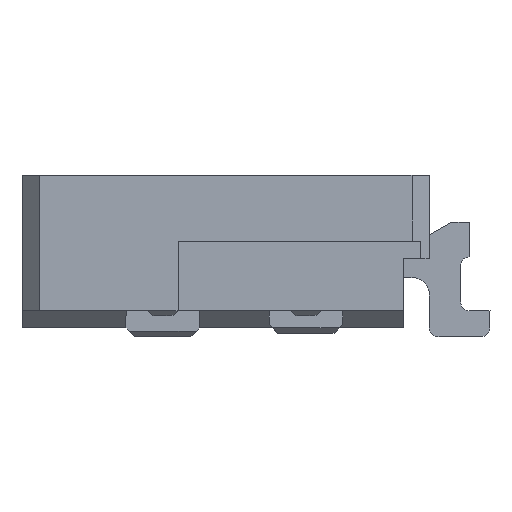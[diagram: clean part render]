
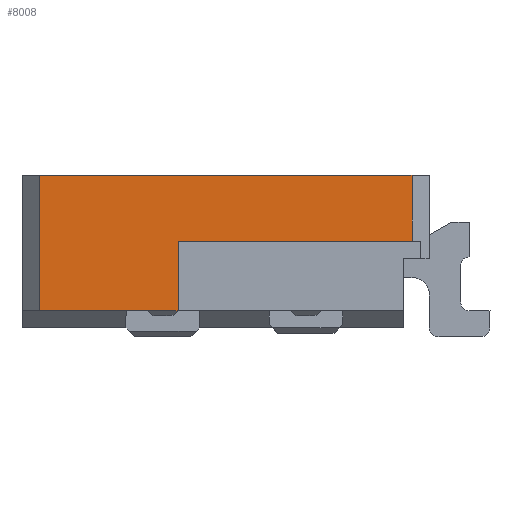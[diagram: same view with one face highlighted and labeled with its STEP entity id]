
A CAD part, left-side view. The second image highlights one B-rep face of the part: STEP entity #8008.
In plain terms, the highlighted planar face has unit normal (-1, 0, 0).
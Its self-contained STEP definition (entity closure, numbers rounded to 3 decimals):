
#10 = DIRECTION ( 'NONE',  ( 0., 0., -1. ) ) ;
#45 = CARTESIAN_POINT ( 'NONE',  ( -0.25, -0.9, 0. ) ) ;
#176 = LINE ( 'NONE', #8149, #5004 ) ;
#380 = EDGE_CURVE ( 'NONE', #1071, #6242, #176, .T. ) ;
#842 = LINE ( 'NONE', #8825, #7754 ) ;
#910 = DIRECTION ( 'NONE',  ( -1., 0., 0. ) ) ;
#1071 = VERTEX_POINT ( 'NONE', #1298 ) ;
#1208 = CARTESIAN_POINT ( 'NONE',  ( -0.25, -0.9, 0.1 ) ) ;
#1234 = VERTEX_POINT ( 'NONE', #7863 ) ;
#1298 = CARTESIAN_POINT ( 'NONE',  ( -0.25, -0.1, 0.1 ) ) ;
#1548 = EDGE_LOOP ( 'NONE', ( #3286, #4081, #7312, #8678, #2295, #5605 ) ) ;
#1795 = CARTESIAN_POINT ( 'NONE',  ( -0.25, 0., 0. ) ) ;
#2245 = PLANE ( 'NONE',  #3973 ) ;
#2295 = ORIENTED_EDGE ( 'NONE', *, *, #3971, .F. ) ;
#2561 = FACE_OUTER_BOUND ( 'NONE', #1548, .T. ) ;
#2805 = DIRECTION ( 'NONE',  ( 0., 1., 0. ) ) ;
#3286 = ORIENTED_EDGE ( 'NONE', *, *, #4692, .T. ) ;
#3292 = VECTOR ( 'NONE', #6467, 1000. ) ;
#3712 = LINE ( 'NONE', #45, #7457 ) ;
#3727 = CARTESIAN_POINT ( 'NONE',  ( -0.25, 0., 0.5 ) ) ;
#3794 = VERTEX_POINT ( 'NONE', #7890 ) ;
#3971 = EDGE_CURVE ( 'NONE', #5681, #1234, #8255, .T. ) ;
#3973 = AXIS2_PLACEMENT_3D ( 'NONE', #1795, #910, #10 ) ;
#4081 = ORIENTED_EDGE ( 'NONE', *, *, #6419, .F. ) ;
#4692 = EDGE_CURVE ( 'NONE', #7528, #3794, #8280, .T. ) ;
#5003 = CARTESIAN_POINT ( 'NONE',  ( -0.25, -2.25, 0.88 ) ) ;
#5004 = VECTOR ( 'NONE', #7228, 1000. ) ;
#5033 = CARTESIAN_POINT ( 'NONE',  ( -0.25, -2.25, 0.5 ) ) ;
#5071 = EDGE_CURVE ( 'NONE', #7528, #5681, #7625, .T. ) ;
#5605 = ORIENTED_EDGE ( 'NONE', *, *, #5071, .F. ) ;
#5681 = VERTEX_POINT ( 'NONE', #5033 ) ;
#5816 = DIRECTION ( 'NONE',  ( 0., 0., -1. ) ) ;
#5906 = VECTOR ( 'NONE', #5816, 1000. ) ;
#6145 = EDGE_CURVE ( 'NONE', #1234, #6242, #3712, .T. ) ;
#6242 = VERTEX_POINT ( 'NONE', #1208 ) ;
#6419 = EDGE_CURVE ( 'NONE', #1071, #3794, #842, .T. ) ;
#6467 = DIRECTION ( 'NONE',  ( 0., 1., 0. ) ) ;
#6689 = VECTOR ( 'NONE', #2805, 1000. ) ;
#6708 = CARTESIAN_POINT ( 'NONE',  ( -0.25, -2.25, 0. ) ) ;
#7228 = DIRECTION ( 'NONE',  ( 0., -1., 0. ) ) ;
#7312 = ORIENTED_EDGE ( 'NONE', *, *, #380, .T. ) ;
#7361 = CARTESIAN_POINT ( 'NONE',  ( -0.25, 0., 0.88 ) ) ;
#7457 = VECTOR ( 'NONE', #8017, 1000. ) ;
#7528 = VERTEX_POINT ( 'NONE', #5003 ) ;
#7625 = LINE ( 'NONE', #6708, #5906 ) ;
#7754 = VECTOR ( 'NONE', #7915, 1000. ) ;
#7863 = CARTESIAN_POINT ( 'NONE',  ( -0.25, -0.9, 0.5 ) ) ;
#7890 = CARTESIAN_POINT ( 'NONE',  ( -0.25, -0.1, 0.88 ) ) ;
#7915 = DIRECTION ( 'NONE',  ( 0., 0., 1. ) ) ;
#8008 = ADVANCED_FACE ( 'NONE', ( #2561 ), #2245, .T. ) ;
#8017 = DIRECTION ( 'NONE',  ( 0., 0., -1. ) ) ;
#8149 = CARTESIAN_POINT ( 'NONE',  ( -0.25, 0., 0.1 ) ) ;
#8255 = LINE ( 'NONE', #3727, #6689 ) ;
#8280 = LINE ( 'NONE', #7361, #3292 ) ;
#8678 = ORIENTED_EDGE ( 'NONE', *, *, #6145, .F. ) ;
#8825 = CARTESIAN_POINT ( 'NONE',  ( -0.25, -0.1, 1.056 ) ) ;
